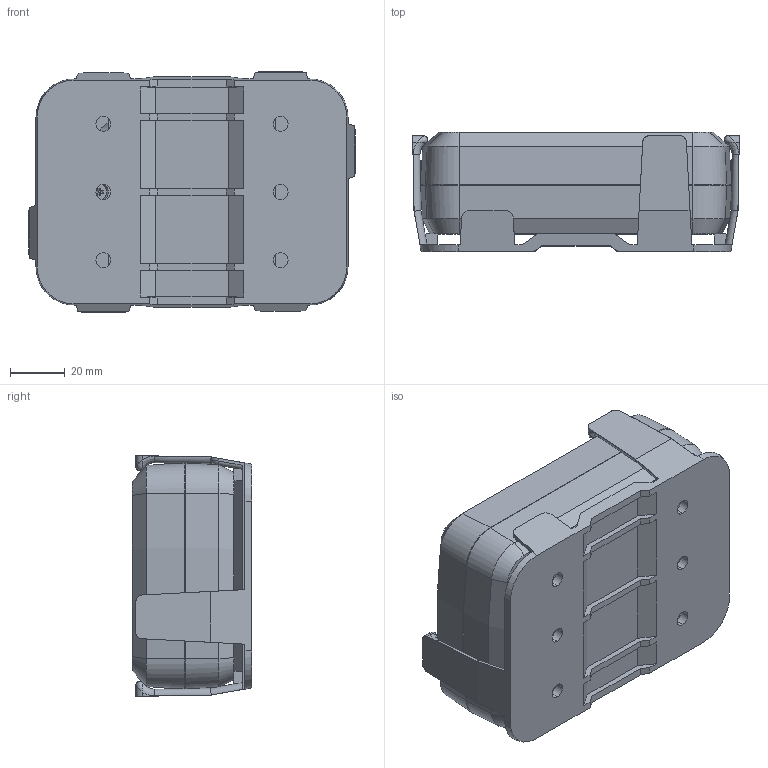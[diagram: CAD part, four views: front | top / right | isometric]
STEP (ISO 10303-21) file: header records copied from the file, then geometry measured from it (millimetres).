
FILE_DESCRIPTION (( 'STEP AP203' ), '1' );
FILE_NAME ('HH-048.STEP', '2020-10-09T05:10:26', ( '' ), ( '' ), 'SwSTEP 2.0', 'SolidWorks 2020', '' );
FILE_SCHEMA (( 'CONFIG_CONTROL_DESIGN' ));
Length unit declared in the file: millimetre
Products named in the file (11): A-935-C; A-368; A-935-AC; A-603-0-0-M-0-10325; cover; A-935-CA; AA; base; A-935-A; A-651-0-0-P-0-11296; HH-048
Assembly tree (14 placements, depth 2):
  HH-048
    base
    cover
    AA  x4
    A-651-0-0-P-0-11296
    A-603-0-0-M-0-10325
    A-935-AC  x2
    A-935-CA
    A-935-A
    A-935-C
    A-368
Bounding box: 119.87 x 43.8 x 88.37 mm (x, y, z)
Volume: 159073.3 mm3; surface area: 139821.9 mm2
Topology: 16 solids, 16 shells, 1186 faces, 3162 edges, 2050 vertices
Faces by surface type: plane 664, cylinder 229, bspline 162, cone 113, torus 18
Entity records: 51131 total; most frequent: CARTESIAN_POINT 22957, ORIENTED_EDGE 6010, DIRECTION 4978, EDGE_CURVE 3005, VECTOR 2006, LINE 2006, VERTEX_POINT 1954, AXIS2_PLACEMENT_3D 1486
